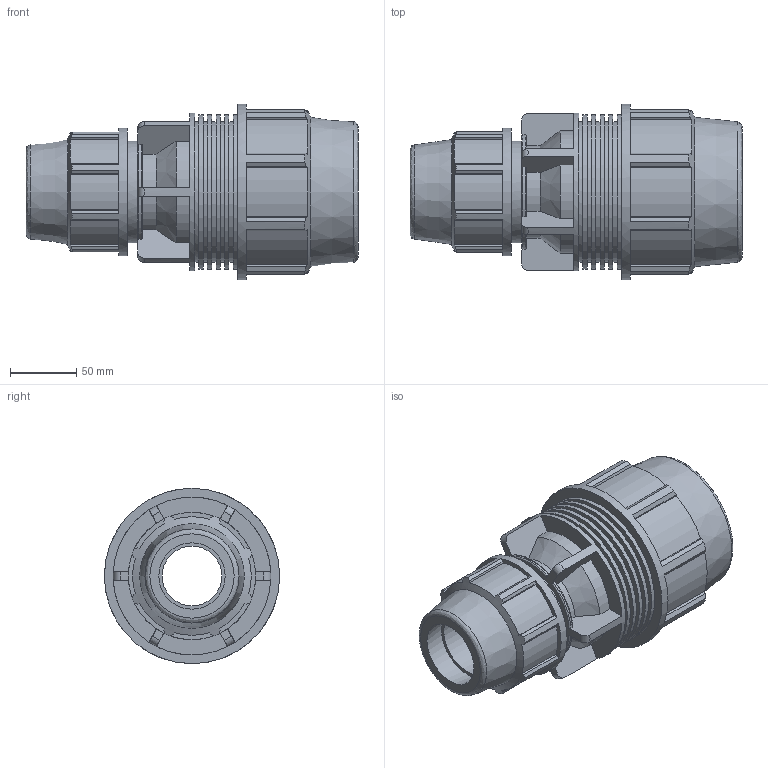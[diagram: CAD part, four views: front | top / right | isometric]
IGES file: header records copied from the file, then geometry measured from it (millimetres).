
Global section: file name: 871100075050_181100075050.ipt; native system: Autodesk Inventor 2015; preprocessor: unknown; author: KIM; date: 20170608.042517; units: millimetre
Bounding box: 250 x 132 x 132 mm (x, y, z)
Volume: 1217427.4 mm3; surface area: 187417.9 mm2
Topology: 1 solids, 1 shells, 207 faces, 580 edges, 392 vertices
Faces by surface type: plane 123, cylinder 54, revolution 20, cone 10
Full cylindrical faces by diameter (mm): 76.8 x1, 96 x1, 105.6 x5, 116.424 x5, 118.8 x1, 132 x1
